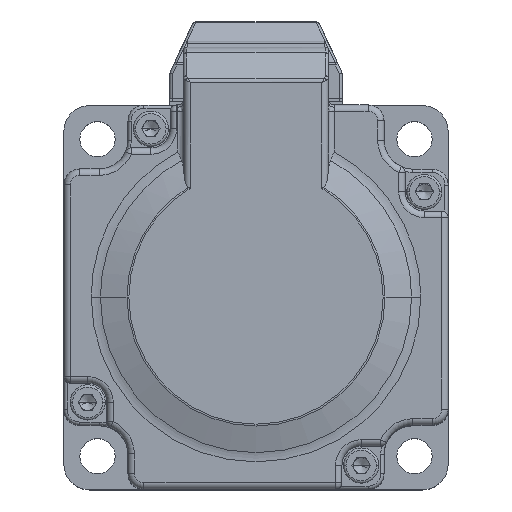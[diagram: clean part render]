
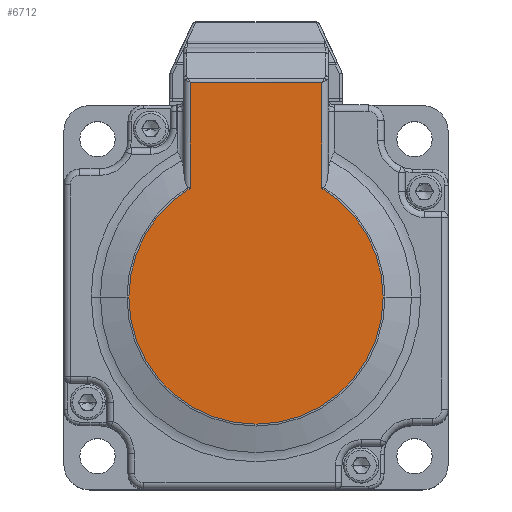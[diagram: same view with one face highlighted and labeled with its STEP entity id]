
A CAD part, top view. The second image highlights one B-rep face of the part: STEP entity #6712.
In plain terms, the highlighted planar face has unit normal (0, 0, 1).
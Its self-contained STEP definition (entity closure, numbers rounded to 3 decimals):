
#264 = CARTESIAN_POINT ( 'NONE',  ( 0., 0., 80.2 ) ) ;
#2289 = VECTOR ( 'NONE', #9575, 1000. ) ;
#2365 = DIRECTION ( 'NONE',  ( 0., 0., 1. ) ) ;
#2448 = CARTESIAN_POINT ( 'NONE',  ( 0., 0., 80.2 ) ) ;
#3403 = CARTESIAN_POINT ( 'NONE',  ( -10.3, 33.486, 80.2 ) ) ;
#3699 = DIRECTION ( 'NONE',  ( 1., 0., 0. ) ) ;
#4110 = CARTESIAN_POINT ( 'NONE',  ( 10.3, 33.486, 80.2 ) ) ;
#4718 = DIRECTION ( 'NONE',  ( 1., 0., 0. ) ) ;
#5002 = LINE ( 'NONE', #7883, #26558 ) ;
#5794 = LINE ( 'NONE', #6769, #2289 ) ;
#6358 = EDGE_CURVE ( 'NONE', #10862, #33278, #30596, .T. ) ;
#6712 = ADVANCED_FACE ( 'NONE', ( #28913 ), #13169, .T. ) ;
#6769 = CARTESIAN_POINT ( 'NONE',  ( 10.3, 33.9, 80.2 ) ) ;
#7867 = DIRECTION ( 'NONE',  ( 0., 0., 1. ) ) ;
#7883 = CARTESIAN_POINT ( 'NONE',  ( -11.3, 33.486, 80.2 ) ) ;
#8004 = LINE ( 'NONE', #34873, #9742 ) ;
#9575 = DIRECTION ( 'NONE',  ( 0., 1., 0. ) ) ;
#9708 = ORIENTED_EDGE ( 'NONE', *, *, #26071, .T. ) ;
#9742 = VECTOR ( 'NONE', #31539, 1000. ) ;
#9954 = VERTEX_POINT ( 'NONE', #4110 ) ;
#10708 = CARTESIAN_POINT ( 'NONE',  ( 0., 0., 80.2 ) ) ;
#10862 = VERTEX_POINT ( 'NONE', #20110 ) ;
#11831 = AXIS2_PLACEMENT_3D ( 'NONE', #2448, #7867, #16323 ) ;
#12786 = ORIENTED_EDGE ( 'NONE', *, *, #15013, .T. ) ;
#13169 = PLANE ( 'NONE',  #14685 ) ;
#13413 = CARTESIAN_POINT ( 'NONE',  ( 19.853, 0., 80.2 ) ) ;
#14685 = AXIS2_PLACEMENT_3D ( 'NONE', #21268, #21638, #4718 ) ;
#15013 = EDGE_CURVE ( 'NONE', #33278, #29466, #34184, .T. ) ;
#16323 = DIRECTION ( 'NONE',  ( 1., 0., 0. ) ) ;
#17786 = CARTESIAN_POINT ( 'NONE',  ( 10.3, 16.972, 80.2 ) ) ;
#18771 = EDGE_CURVE ( 'NONE', #29466, #22040, #34945, .T. ) ;
#19387 = AXIS2_PLACEMENT_3D ( 'NONE', #10708, #2365, #30251 ) ;
#20110 = CARTESIAN_POINT ( 'NONE',  ( -10.3, 16.972, 80.2 ) ) ;
#21268 = CARTESIAN_POINT ( 'NONE',  ( 0., 0., 80.2 ) ) ;
#21638 = DIRECTION ( 'NONE',  ( 0., 0., 1. ) ) ;
#22040 = VERTEX_POINT ( 'NONE', #17786 ) ;
#22095 = CARTESIAN_POINT ( 'NONE',  ( -19.853, 0., 80.2 ) ) ;
#22345 = DIRECTION ( 'NONE',  ( -1., 0., 0. ) ) ;
#22575 = AXIS2_PLACEMENT_3D ( 'NONE', #264, #28518, #3699 ) ;
#23231 = ORIENTED_EDGE ( 'NONE', *, *, #18771, .T. ) ;
#23425 = ORIENTED_EDGE ( 'NONE', *, *, #25973, .T. ) ;
#25973 = EDGE_CURVE ( 'NONE', #27066, #10862, #8004, .T. ) ;
#26071 = EDGE_CURVE ( 'NONE', #22040, #9954, #5794, .T. ) ;
#26175 = ORIENTED_EDGE ( 'NONE', *, *, #31663, .T. ) ;
#26558 = VECTOR ( 'NONE', #22345, 1000. ) ;
#27066 = VERTEX_POINT ( 'NONE', #3403 ) ;
#28518 = DIRECTION ( 'NONE',  ( 0., 0., 1. ) ) ;
#28913 = FACE_OUTER_BOUND ( 'NONE', #32890, .T. ) ;
#29466 = VERTEX_POINT ( 'NONE', #13413 ) ;
#30251 = DIRECTION ( 'NONE',  ( 1., 0., 0. ) ) ;
#30596 = CIRCLE ( 'NONE', #11831, 19.853 ) ;
#31539 = DIRECTION ( 'NONE',  ( 0., -1., 0. ) ) ;
#31663 = EDGE_CURVE ( 'NONE', #9954, #27066, #5002, .T. ) ;
#32049 = ORIENTED_EDGE ( 'NONE', *, *, #6358, .T. ) ;
#32890 = EDGE_LOOP ( 'NONE', ( #26175, #23425, #32049, #12786, #23231, #9708 ) ) ;
#33278 = VERTEX_POINT ( 'NONE', #22095 ) ;
#34184 = CIRCLE ( 'NONE', #19387, 19.853 ) ;
#34873 = CARTESIAN_POINT ( 'NONE',  ( -10.3, 16.502, 80.2 ) ) ;
#34945 = CIRCLE ( 'NONE', #22575, 19.853 ) ;
